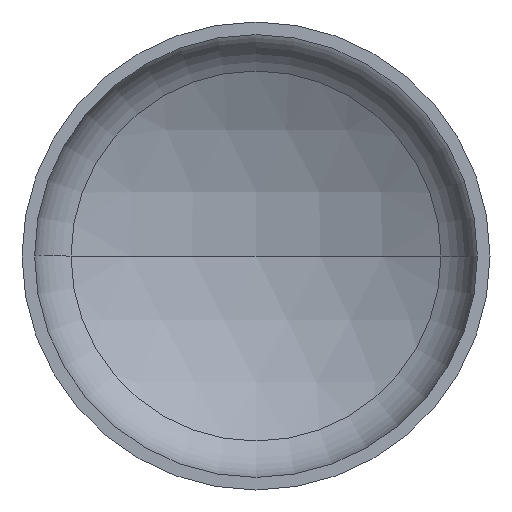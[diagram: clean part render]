
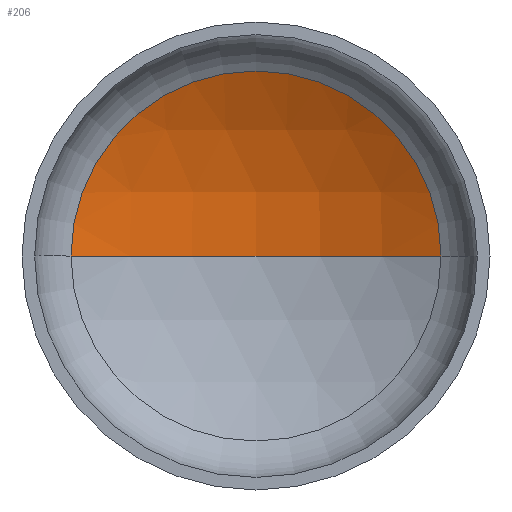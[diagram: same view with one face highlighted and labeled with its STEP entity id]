
A CAD part, front view. The second image highlights one B-rep face of the part: STEP entity #206.
In plain terms, the highlighted spherical face has radius 1040 mm.
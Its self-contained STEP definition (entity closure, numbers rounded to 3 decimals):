
#17 = EDGE_LOOP ( 'NONE', ( #53, #42, #126 ) ) ;
#22 = VERTEX_POINT ( 'NONE', #268 ) ;
#28 = AXIS2_PLACEMENT_3D ( 'NONE', #225, #194, #171 ) ;
#31 = CIRCLE ( 'NONE', #41, 1040. ) ;
#39 = AXIS2_PLACEMENT_3D ( 'NONE', #224, #388, #411 ) ;
#41 = AXIS2_PLACEMENT_3D ( 'NONE', #252, #367, #202 ) ;
#42 = ORIENTED_EDGE ( 'NONE', *, *, #86, .T. ) ;
#44 = AXIS2_PLACEMENT_3D ( 'NONE', #182, #185, #251 ) ;
#51 = VERTEX_POINT ( 'NONE', #233 ) ;
#53 = ORIENTED_EDGE ( 'NONE', *, *, #93, .F. ) ;
#84 = EDGE_CURVE ( 'NONE', #22, #51, #179, .T. ) ;
#86 = EDGE_CURVE ( 'NONE', #141, #22, #31, .T. ) ;
#93 = EDGE_CURVE ( 'NONE', #141, #51, #299, .T. ) ;
#126 = ORIENTED_EDGE ( 'NONE', *, *, #84, .T. ) ;
#141 = VERTEX_POINT ( 'NONE', #205 ) ;
#170 = FACE_OUTER_BOUND ( 'NONE', #17, .T. ) ;
#171 = DIRECTION ( 'NONE',  ( -1., 0., 0. ) ) ;
#179 = CIRCLE ( 'NONE', #44, 513.81 ) ;
#182 = CARTESIAN_POINT ( 'NONE',  ( 0., 283.887, 0. ) ) ;
#185 = DIRECTION ( 'NONE',  ( 0., -1., 0. ) ) ;
#194 = DIRECTION ( 'NONE',  ( 0., 0., -1. ) ) ;
#202 = DIRECTION ( 'NONE',  ( -1., 0., 0. ) ) ;
#205 = CARTESIAN_POINT ( 'NONE',  ( 0., 419.675, 0. ) ) ;
#206 = ADVANCED_FACE ( 'NONE', ( #170 ), #290, .F. ) ;
#224 = CARTESIAN_POINT ( 'NONE',  ( 0., -620.325, 0. ) ) ;
#225 = CARTESIAN_POINT ( 'NONE',  ( 0., -620.325, 0. ) ) ;
#233 = CARTESIAN_POINT ( 'NONE',  ( -513.81, 283.887, 0. ) ) ;
#251 = DIRECTION ( 'NONE',  ( 1., 0., 0. ) ) ;
#252 = CARTESIAN_POINT ( 'NONE',  ( 0., -620.325, 0. ) ) ;
#268 = CARTESIAN_POINT ( 'NONE',  ( 513.81, 283.887, 0. ) ) ;
#290 = SPHERICAL_SURFACE ( 'NONE', #28, 1040. ) ;
#299 = CIRCLE ( 'NONE', #39, 1040. ) ;
#367 = DIRECTION ( 'NONE',  ( 0., 0., -1. ) ) ;
#388 = DIRECTION ( 'NONE',  ( 0., 0., 1. ) ) ;
#411 = DIRECTION ( 'NONE',  ( 1., 0., 0. ) ) ;
